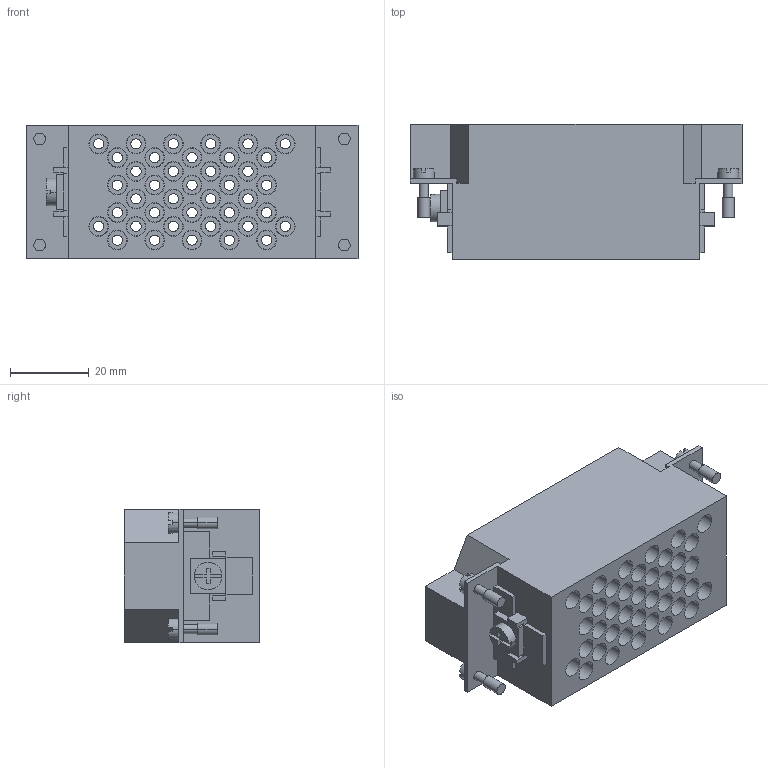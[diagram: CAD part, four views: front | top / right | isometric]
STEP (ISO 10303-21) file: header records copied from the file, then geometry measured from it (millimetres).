
FILE_DESCRIPTION (( 'STEP AP203' ), '1' );
FILE_NAME ('352242.STEP', '2025-06-26T08:57:36', ( '' ), ( '' ), 'SwSTEP 2.0', 'SolidWorks 2018', '' );
FILE_SCHEMA (( 'CONFIG_CONTROL_DESIGN' ));
Length unit declared in the file: millimetre
Products named in the file (1): 352242
Bounding box: 84.5 x 34.5 x 34 mm (x, y, z)
Volume: 40715.8 mm3; surface area: 32347.1 mm2
Topology: 1 solids, 1 shells, 656 faces, 1554 edges, 1036 vertices
Faces by surface type: cylinder 368, plane 288
Entity records: 19487 total; most frequent: DIRECTION 3640, CARTESIAN_POINT 3247, ORIENTED_EDGE 3108, EDGE_CURVE 1554, AXIS2_PLACEMENT_3D 1429, VERTEX_POINT 1036, EDGE_LOOP 872, VECTOR 782
